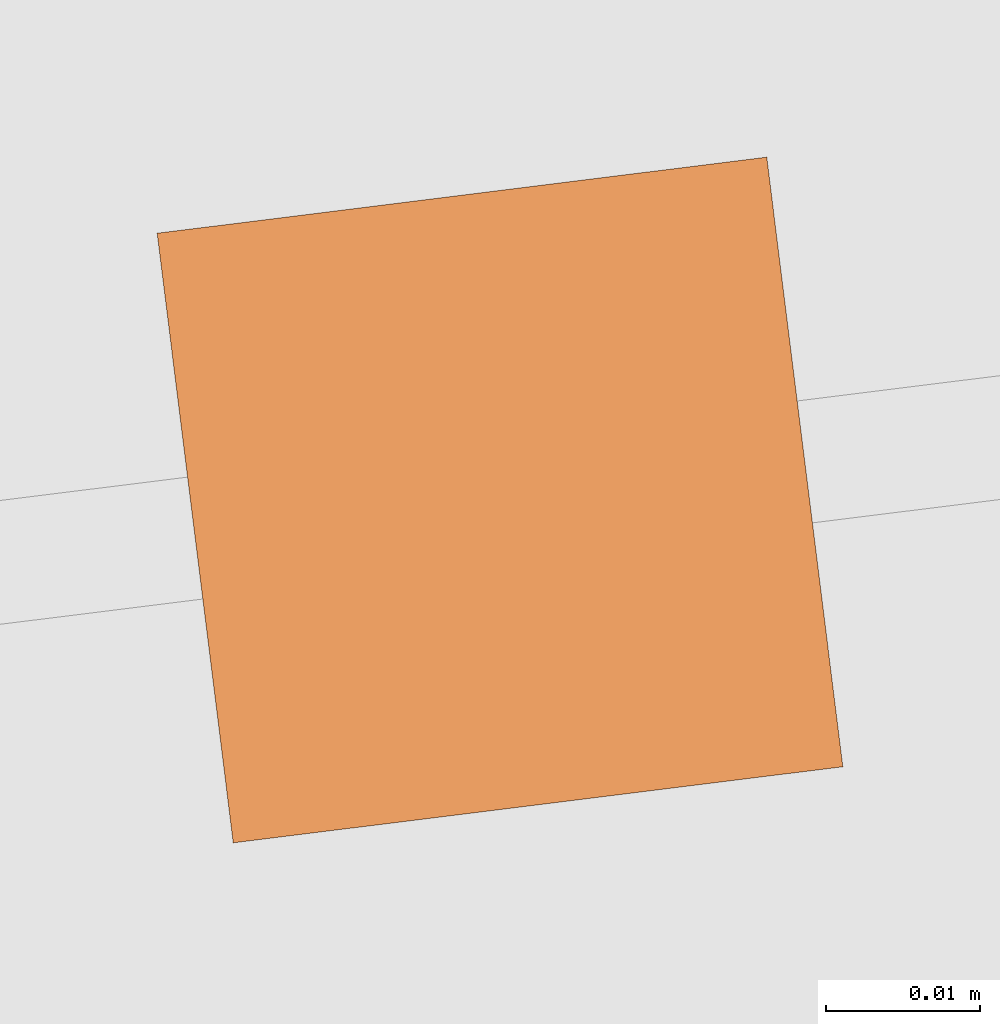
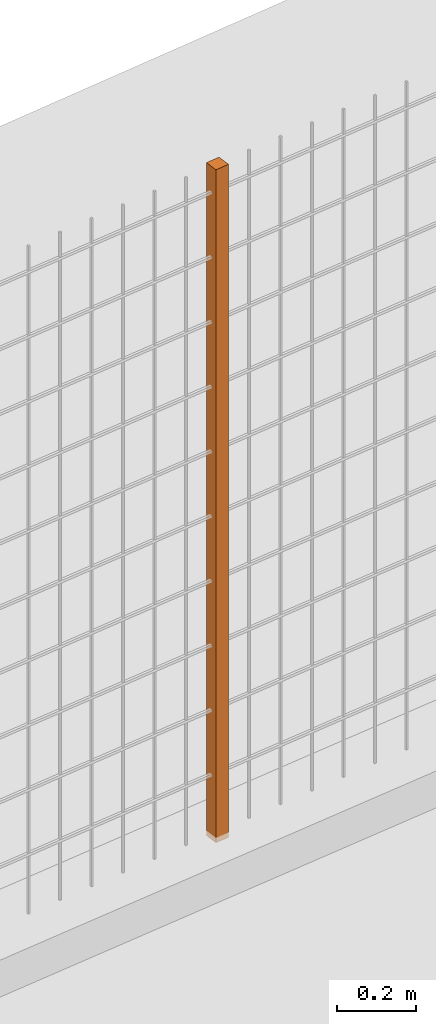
# One storey, part 43 of 1809: 1 proxy, 1 element without a shape of its own.
"""IFC2X3 building model written with IfcOpenShell, lengths in millimetres."""

from ifc_helpers import new_model, entity, si_unit, converted_unit, derived_unit, money_unit, direction, frame, origin_with_axes, place, context, subcontext, project, spatial, faceted_brep, source, transform, mapped, material, type_object, element, aggregate, save


model = new_model("IFC2X3")

# Units and contexts
model_context = context("Model", 3, precision=0.01, world=origin_with_axes(), true_north=direction((0.0, 1.0)))
body_context = subcontext(model_context, "Body", "Model", "MODEL_VIEW")
ifc_project = project(units=[si_unit("LENGTHUNIT", "METRE", prefix="MILLI"), si_unit("AREAUNIT", "SQUARE_METRE"), si_unit("VOLUMEUNIT", "CUBIC_METRE"), converted_unit("PLANEANGLEUNIT", "DEGREE", entity("IfcPlaneAngleMeasure", 0.0174532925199), si_unit("PLANEANGLEUNIT", "RADIAN"), dimensions=[0, 0, 0, 0, 0, 0, 0]), si_unit("SOLIDANGLEUNIT", "STERADIAN"), money_unit("EUR"), converted_unit("TIMEUNIT", "Year", entity("IfcTimeMeasure", 31556926.0), si_unit("TIMEUNIT", "SECOND"), dimensions=[0, 0, 1, 0, 0, 0, 0]), si_unit("MASSUNIT", "GRAM", prefix="KILO"), si_unit("THERMODYNAMICTEMPERATUREUNIT", "DEGREE_CELSIUS"), si_unit("LUMINOUSINTENSITYUNIT", "LUMEN"), si_unit("ENERGYUNIT", "JOULE", prefix="MEGA"), derived_unit("THERMALCONDUCTANCEUNIT", [(si_unit("POWERUNIT", "WATT"), 1), (si_unit("LENGTHUNIT", "METRE"), -1), (si_unit("THERMODYNAMICTEMPERATUREUNIT", "KELVIN"), -1)]), derived_unit("SPECIFICHEATCAPACITYUNIT", [(si_unit("ENERGYUNIT", "JOULE"), 1), (si_unit("MASSUNIT", "GRAM", prefix="KILO"), -1), (si_unit("THERMODYNAMICTEMPERATUREUNIT", "KELVIN"), -1)]), derived_unit("MASSDENSITYUNIT", [(si_unit("MASSUNIT", "GRAM", prefix="KILO"), 1), (si_unit("VOLUMEUNIT", "CUBIC_METRE"), -1)])], contexts=[model_context])

# Site, building, storey
site_placement = place(None, origin_with_axes())
site = spatial("IfcSite", under=ifc_project, at=site_placement, Name="Politse- ja Piirivalveameti ning Päästeameti ühishoone", CompositionType="ELEMENT")
building_placement = place(site_placement, origin_with_axes())
building = spatial("IfcBuilding", under=site, at=building_placement, Name="Politse- ja Piirivalveameti ning Päästeameti ühishoone", CompositionType="ELEMENT")
storey_placement = place(building_placement, origin_with_axes())
storey = spatial("IfcBuildingStorey", under=building, at=storey_placement, Name="Esimene korrus", CompositionType="ELEMENT", Elevation=0.0)

# Proxies
building_element_proxy_type_1 = type_object("IfcBuildingElementProxyType", Name="Railing Type", PredefinedType="NOTDEFINED")
proxy_1_placement = place(storey_placement, frame((44315.9245146, 76650.7857067, 296.762367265), z_axis=(0.0, 0.0, 1.0), x_axis=(0.122151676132, 0.992511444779, 0.0)))
proxy_1 = element("IfcBuildingElementProxy", 1, at=proxy_1_placement, inside=storey, type_object=building_element_proxy_type_1, Name="PIIRDEAED")
ifc_material = material(Name="ET-03_Raud")
building_element_proxy_type_2 = type_object("IfcBuildingElementProxyType", Name="IfcBuildingElementProxy", PredefinedType="NOTDEFINED")
shared_shape = source(origin_with_axes(), body_context, "Body", "Brep", [
    faceted_brep([(20.0, 20.0, 0.0), (-20.0, 20.0, 0.0), (-20.0, 20.0, 2080.0), (20.0, 20.0, 2080.0), (20.0, -20.0, 0.0), (-20.0, -20.0, 0.0), (-20.0, -20.0, 2080.0), (20.0, -20.0, 2080.0)], [[[0, 1, 2, 3]], [[0, 4, 5, 1]], [[1, 5, 6, 2]], [[3, 2, 6, 7]], [[4, 0, 3, 7]], [[5, 4, 7, 6]]]),
])
proxy_2_placement = place(proxy_1_placement, frame((-4134.85088311, 15639.703778, 0.0), z_axis=(0.0, 0.0, 1.0), x_axis=(0.122151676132, -0.992511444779, 0.0)))
proxy_2 = element("IfcBuildingElementProxy", 2, at=proxy_2_placement, type_object=building_element_proxy_type_2, material=ifc_material, Name="SISEPOST - 001", context=body_context, shape_type="MappedRepresentation", body=[
    mapped(shared_shape, transform((0.0, 0.0, 0.0), x_axis=(-0.123895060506, 0.99229532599, 0.0), y_axis=(-0.99229532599, -0.123895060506, 0.0), z_axis=(0.0, 0.0, 1.0))),
])
aggregate(proxy_1, [proxy_2])

save(model, "model.ifc")
